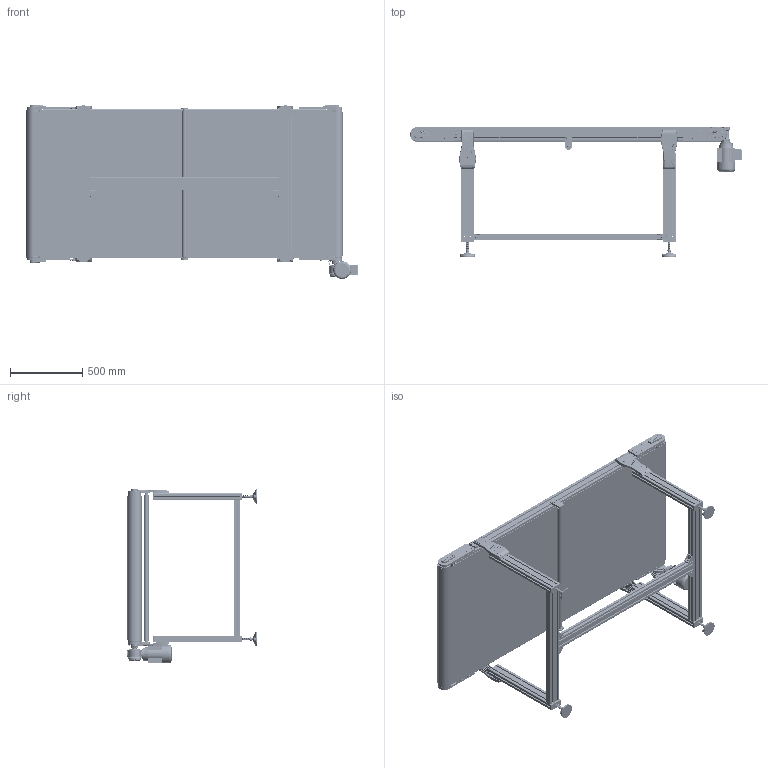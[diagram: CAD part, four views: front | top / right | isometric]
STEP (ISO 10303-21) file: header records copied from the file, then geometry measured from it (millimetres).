
FILE_DESCRIPTION (( 'STEP AP203' ), '1' );
FILE_NAME ('NASTRO_RETTILINEO_TAPPETO.step', '2026-04-24T12:23:20', ( 'Utente Windows' ), ( '' ), 'SwSTEP 2.0', 'SolidWorks 2024', '' );
FILE_SCHEMA (( 'CONFIG_CONTROL_DESIGN' ));
Length unit declared in the file: millimetre
Products named in the file (66): 084.302.000 DADI ALUSIC 13x13-1_084.302.004; RULLO_REGGITAPPETO; 084.802.013-2; VITI TSEI UNI 5933_M4x12 UNI 5933; 084.802.062; RULLO_95_Default<A macchina>; BLOCCO_PERNO_95_44; 084.201.019; VITE_DADO_M5X12; 2010.000.074; 2010.000.072; 084.812.003; 084.802.017_084.802.017; 084.812.001; VITI TCEI UNI 5931_M4x25 UNI 5931; VITI TCEI UNI 5931_M6x12 UNI 5931; 084.301.000 VITI ALUSIC1_084.301.003; FLANGIA_GAMBA_95_CON GIUNTI; 084.803.018; 084.302.000 DADI ALUSIC 13x13-1_084.302.009; TELAIO_95_STANDARD_Default<A macchina>; 2010.000.072_L_Default<A macchina>; RONDELLE FASCIA LARGA UNI 6593_6.4x24 UNI 6593; 084.810.003; 084.802.014; RONDELLE UNI 6592_8.4x17 UNI 6592; BLOCCO_REGGITAPPETO; TAPPETO_STANDARD; 084.305.003-1; 30UNI7435; GAMBE_D95_Default<A macchina>; 084.802.071; LAMIERA_STANDARD; CH04P_SX; 084.402.005; 084.405.001; VITI TE UNI 5739_M6x16 UNI 5739; PIEDE_95; CHIAVETTE_A 8x7x20 UNI 6604-69; 084.802.034_084.802.034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
Assembly tree (198 placements, depth 4):
  NASTRO_RETTILINEO_TAPPETO
    TAPPETO_STANDARD
    TELAIO_95_STANDARD_Default<A macchina>
    LAMIERA_STANDARD
    RULLO_95_Default<A macchina>  x2
    BLOCCO_PERNO_95_RINVIO  x3
      084.812.003
      084.810.003
      30UNI7435
    BLOCCO_TRAINO_95_STANDARD_CON TENDINASTRO E CARTER
      084.808.002_084.808.002
      084.302.060  x2
      084.802.019_084.802.019
      084.301.000 VITI ALUSIC_084.301.003  x6
      VITI TCEI UNI 5931_M4x25 UNI 5931  x2
      084.802.071
      084.802.068
      VITI TSEI UNI 5933_M4x12 UNI 5933  x2
    BLOCCO_PERNO_95_44
      084.812.001
      084.810.003
      CHIAVETTE_A 6x6x60 UNI 6604-69
      CHIAVETTE_A 8x7x20 UNI 6604-69
      RONDELLE FASCIA LARGA UNI 6593_6.4x24 UNI 6593
      VITI TE UNI 5739_M6x12 UNI 5739
      30UNI7435
    BLOCCO_TRAINO_95_STANDARD_44_SX_SX
      084.802.034_084.802.034
      084.301.000 VITI ALUSIC_084.301.003  x6
      084.808.003_084.808.003
      084.302.060  x2
      VITI TCEI UNI 5931_M4x25 UNI 5931  x2
      084.802.068
      BLOCCO_BRACCIO_CH04P_V2_VF44P V2
        084.808.012
        084.802.062
        084.803.018
        VITI TCEI UNI 5931_M6x12 UNI 5931  x4
        VITI TE UNI 5739_M6x16 UNI 5739  x4
        084.802.060_Default<A macchina>
    BLOCCO_RINVIO_95_STANDARD_CON TENDINASTRO E CARTER  x2
      084.808.002_084.808.002
      084.803.003
      084.302.060
      084.802.019_084.802.019
      VITI TSEI UNI 5933_M4x12 UNI 5933
      084.302.000 DADI ALUSIC 13x13-1_084.302.004
      084.301.000 VITI ALUSIC_084.301.003
      084.802.071
    GAMBE_D95_Default<A macchina>  x2
    FLANGIA_GAMBA_95_CON GIUNTI
      2010.000.072
        2010.000.072_L_Default<A macchina>
        2010.000.073
        2010.000.074
      084.302.000 DADI ALUSIC 13x13-1_084.302.004  x6
      RONDELLE UNI 6592_8.4x17 UNI 6592  x7
      084.301.000 VITI ALUSIC1_084.301.003  x7
    FLANGIA_GAMBA_95_CON GIUNTI  x3
      2010.000.072
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Bounding box: 2304.1 x 904.5 x 1206.5 mm (x, y, z)
Volume: 38564030.4 mm3; surface area: 29832985.9 mm2
Topology: 347 solids, 358 shells, 16920 faces, 44109 edges, 28236 vertices
Faces by surface type: plane 7633, cylinder 4612, bspline 1867, cone 1519, torus 1157, sphere 132
Entity records: 263369 total; most frequent: CARTESIAN_POINT 96724, ORIENTED_EDGE 34346, DIRECTION 30569, EDGE_CURVE 17173, VERTEX_POINT 11081, AXIS2_PLACEMENT_3D 10411, VECTOR 9747, LINE 9747
